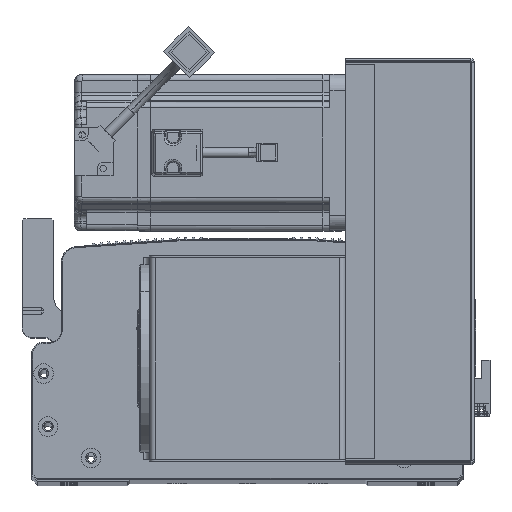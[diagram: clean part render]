
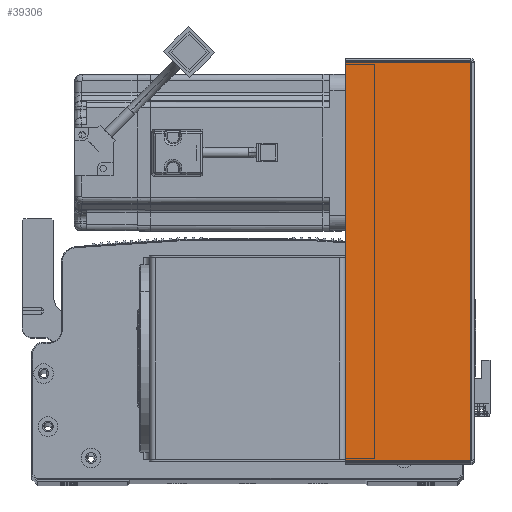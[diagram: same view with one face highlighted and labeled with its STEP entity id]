
A CAD part, top view. The second image highlights one B-rep face of the part: STEP entity #39306.
In plain terms, the highlighted planar face has unit normal (0, 0, 1) as drawn and (0, -1, 0) by its records, which use the part's own axes.
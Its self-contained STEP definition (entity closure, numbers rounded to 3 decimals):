
#5070 = CARTESIAN_POINT ( 'NONE',  ( 64.5, -1.5, -0.707 ) ) ;
#6932 = CARTESIAN_POINT ( 'NONE',  ( 0., -1.5, -203.293 ) ) ;
#6936 = VERTEX_POINT ( 'NONE', #83460 ) ;
#9373 = LINE ( 'NONE', #40133, #40733 ) ;
#18156 = VECTOR ( 'NONE', #45361, 1000. ) ;
#21004 = DIRECTION ( 'NONE',  ( 0., 0., 1. ) ) ;
#23319 = LINE ( 'NONE', #31861, #18156 ) ;
#25362 = DIRECTION ( 'NONE',  ( -1., 0., 0. ) ) ;
#26833 = ORIENTED_EDGE ( 'NONE', *, *, #44360, .F. ) ;
#31152 = VECTOR ( 'NONE', #21004, 1000. ) ;
#31754 = PLANE ( 'NONE',  #33794 ) ;
#31861 = CARTESIAN_POINT ( 'NONE',  ( 0.737, -1.5, 0. ) ) ;
#32351 = DIRECTION ( 'NONE',  ( 1., 0., 0. ) ) ;
#33794 = AXIS2_PLACEMENT_3D ( 'NONE', #64752, #65323, #25362 ) ;
#36323 = EDGE_CURVE ( 'NONE', #68303, #63245, #64586, .T. ) ;
#36411 = LINE ( 'NONE', #6932, #70801 ) ;
#37774 = CARTESIAN_POINT ( 'NONE',  ( 64.5, -1.5, -203.293 ) ) ;
#39306 = ADVANCED_FACE ( 'NONE', ( #43357 ), #31754, .F. ) ;
#40103 = EDGE_CURVE ( 'NONE', #6936, #42155, #23319, .T. ) ;
#40133 = CARTESIAN_POINT ( 'NONE',  ( 0., -1.5, -0.707 ) ) ;
#40421 = DIRECTION ( 'NONE',  ( 1., 0., 0. ) ) ;
#40733 = VECTOR ( 'NONE', #40421, 1000. ) ;
#42155 = VERTEX_POINT ( 'NONE', #70425 ) ;
#43357 = FACE_OUTER_BOUND ( 'NONE', #44135, .T. ) ;
#44135 = EDGE_LOOP ( 'NONE', ( #83186, #48549, #55684, #26833 ) ) ;
#44360 = EDGE_CURVE ( 'NONE', #42155, #63245, #9373, .T. ) ;
#45361 = DIRECTION ( 'NONE',  ( 0., 0., 1. ) ) ;
#48549 = ORIENTED_EDGE ( 'NONE', *, *, #84153, .T. ) ;
#55684 = ORIENTED_EDGE ( 'NONE', *, *, #36323, .T. ) ;
#63245 = VERTEX_POINT ( 'NONE', #5070 ) ;
#64586 = LINE ( 'NONE', #74672, #31152 ) ;
#64752 = CARTESIAN_POINT ( 'NONE',  ( 0., -1.5, 0. ) ) ;
#65323 = DIRECTION ( 'NONE',  ( 0., 1., 0. ) ) ;
#68303 = VERTEX_POINT ( 'NONE', #37774 ) ;
#70425 = CARTESIAN_POINT ( 'NONE',  ( 0.737, -1.5, -0.707 ) ) ;
#70801 = VECTOR ( 'NONE', #32351, 1000. ) ;
#74672 = CARTESIAN_POINT ( 'NONE',  ( 64.5, -1.5, 0. ) ) ;
#83186 = ORIENTED_EDGE ( 'NONE', *, *, #40103, .F. ) ;
#83460 = CARTESIAN_POINT ( 'NONE',  ( 0.737, -1.5, -203.293 ) ) ;
#84153 = EDGE_CURVE ( 'NONE', #6936, #68303, #36411, .T. ) ;
